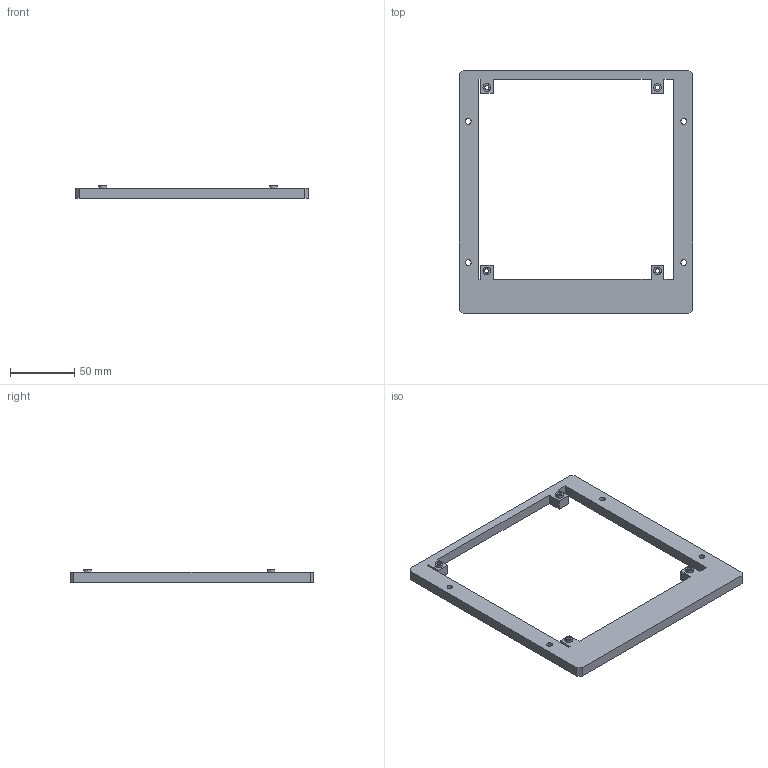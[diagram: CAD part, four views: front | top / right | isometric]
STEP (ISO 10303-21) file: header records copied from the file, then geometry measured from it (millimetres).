
FILE_DESCRIPTION (( 'STEP AP203' ), '1' );
FILE_NAME ('03_tx_carrier_8x8.step', '2026-10-15T09:35:00', ( '' ), ( '' ), 'SwSTEP 2.0', 'SolidWorks 2025', '' );
FILE_SCHEMA (( 'CONFIG_CONTROL_DESIGN' ));
Length unit declared in the file: millimetre
Products named in the file (1): 03_tx_carrier_8x8
Bounding box: 182 x 190 x 10 mm (x, y, z)
Volume: 89674.1 mm3; surface area: 34938.3 mm2
Topology: 1 solids, 1 shells, 58 faces, 156 edges, 104 vertices
Faces by surface type: plane 34, cylinder 24
Entity records: 1941 total; most frequent: DIRECTION 322, CARTESIAN_POINT 319, ORIENTED_EDGE 312, EDGE_CURVE 156, VECTOR 108, LINE 108, AXIS2_PLACEMENT_3D 107, VERTEX_POINT 104
